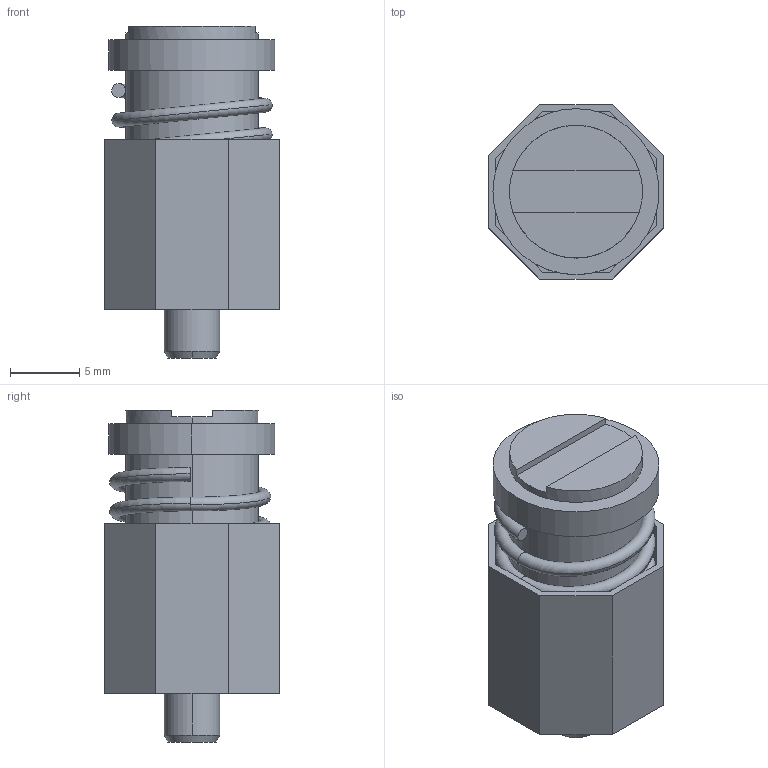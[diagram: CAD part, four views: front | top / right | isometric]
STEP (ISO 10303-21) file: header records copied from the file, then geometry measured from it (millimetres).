
FILE_DESCRIPTION(('STEP AP203'),'1');
FILE_NAME(' ',' ',('TraceParts'),('TraceParts S.A.'),'XStep 1.0',' ',' ');
FILE_SCHEMA(('CONFIG_CONTROL_DESIGN'));
Length unit declared in the file: millimetre
Products named in the file (3): 1; 2; 3
Bounding box: 12.6 x 12.6 x 24 mm (x, y, z)
Volume: 1760.8 mm3; surface area: 2567.9 mm2
Topology: 3 solids, 3 shells, 62 faces, 156 edges, 104 vertices
Faces by surface type: plane 30, torus 20, cylinder 10, cone 2
Entity records: 2044 total; most frequent: DIRECTION 374, CARTESIAN_POINT 325, ORIENTED_EDGE 312, EDGE_CURVE 156, AXIS2_PLACEMENT_3D 153, VERTEX_POINT 104, CIRCLE 88, EDGE_LOOP 68
